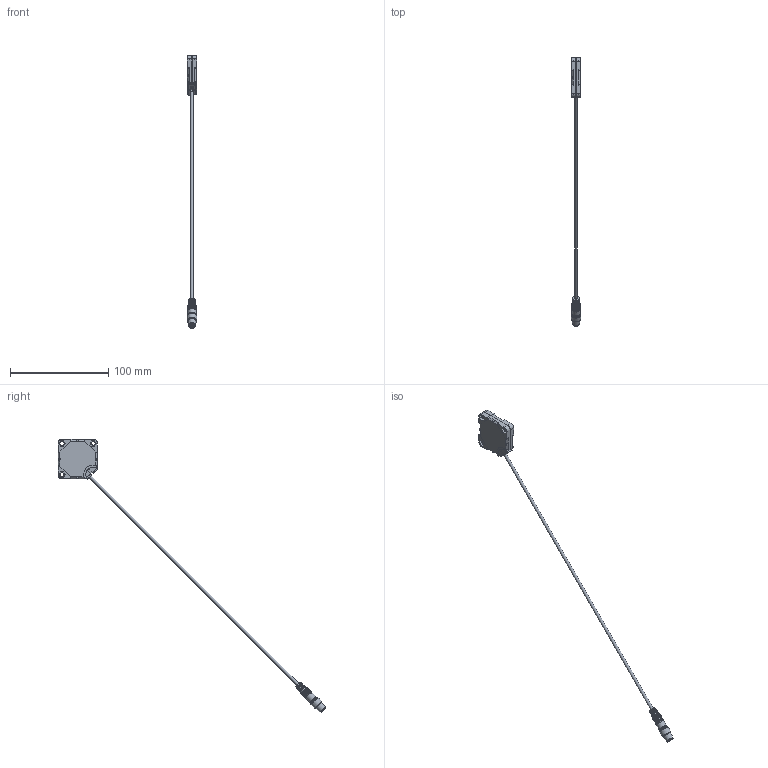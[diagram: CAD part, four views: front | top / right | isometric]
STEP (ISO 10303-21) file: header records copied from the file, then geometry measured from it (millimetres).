
FILE_DESCRIPTION (( 'STEP AP214' ), '1' );
FILE_NAME ('SYRINGE-SENSOR.STEP', '2024-10-14T15:04:31', ( '' ), ( '' ), 'SwSTEP 2.0', 'SolidWorks 2024', '' );
FILE_SCHEMA (( 'AUTOMOTIVE_DESIGN' ));
Length unit declared in the file: millimetre
Products named in the file (1): SYRINGE-SENSOR
Bounding box: 10 x 273.25 x 278.48 mm (x, y, z)
Volume: 18226 mm3; surface area: 9199.5 mm2
Topology: 2 solids, 2 shells, 225 faces, 559 edges, 359 vertices
Faces by surface type: plane 137, cylinder 59, cone 16, torus 10, sphere 3
Full cylindrical faces by diameter (mm): 1 x3, 2 x4, 3 x1, 3.2 x2, 4.2 x3, 5.8 x1, 6.2 x1, 6.7 x1, 8 x1, 8.5 x5, 10 x1
Entity records: 6306 total; most frequent: CARTESIAN_POINT 1159, DIRECTION 1050, ORIENTED_EDGE 994, EDGE_CURVE 497, AXIS2_PLACEMENT_3D 353, VERTEX_POINT 346, LINE 344, VECTOR 344
